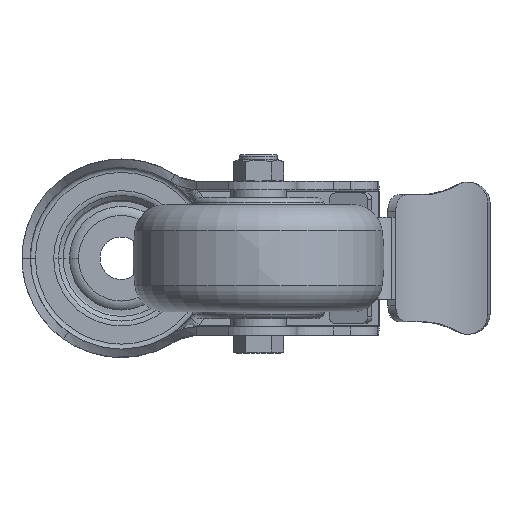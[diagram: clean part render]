
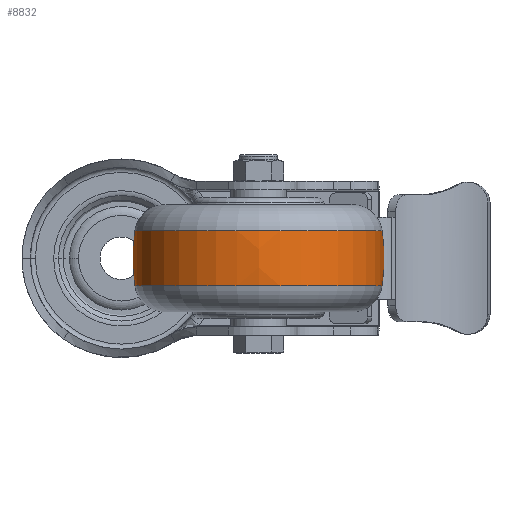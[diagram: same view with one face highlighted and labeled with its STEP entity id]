
A CAD part, front view. The second image highlights one B-rep face of the part: STEP entity #8832.
In plain terms, the highlighted free-form (B-spline) face has degree [3, 3] with [7, 4] control points.
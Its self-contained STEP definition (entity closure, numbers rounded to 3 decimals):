
#8370=CARTESIAN_POINT('',(-8.235,0.,0.));
#8371=DIRECTION('',(-1.,0.,0.));
#8372=DIRECTION('',(0.,1.,0.));
#8373=AXIS2_PLACEMENT_3D('',#8370,#8371,#8372);
#8385=CARTESIAN_POINT('',(0.,-22.5,0.));
#8386=DIRECTION('',(0.,0.,1.));
#8387=DIRECTION('',(0.137,0.991,0.));
#8388=AXIS2_PLACEMENT_3D('',#8385,#8386,#8387);
#8390=CARTESIAN_POINT('',(0.,22.5,0.));
#8391=DIRECTION('',(0.,0.,-1.));
#8392=DIRECTION('',(0.137,-0.991,0.));
#8393=AXIS2_PLACEMENT_3D('',#8390,#8391,#8392);
#8395=CARTESIAN_POINT('',(8.235,0.,0.));
#8396=DIRECTION('',(-1.,0.,0.));
#8397=DIRECTION('',(0.,1.,0.));
#8398=AXIS2_PLACEMENT_3D('',#8395,#8396,#8397);
#8562=CARTESIAN_POINT('',(8.235,36.932,0.));
#8564=VERTEX_POINT('',#8562);
#8565=CARTESIAN_POINT('',(-8.235,36.932,0.));
#8566=VERTEX_POINT('',#8565);
#8570=CARTESIAN_POINT('',(8.235,-36.932,0.));
#8572=VERTEX_POINT('',#8570);
#8573=CARTESIAN_POINT('',(-8.235,-36.932,0.));
#8574=VERTEX_POINT('',#8573);
#8796=CARTESIAN_POINT('',(-8.563,-36.813,
2.316));
#8797=CARTESIAN_POINT('',(-2.874,-37.632,
2.368));
#8798=CARTESIAN_POINT('',(2.874,-37.632,2.368));
#8799=CARTESIAN_POINT('',(8.563,-36.813,2.316));
#8800=CARTESIAN_POINT('',(-8.563,-38.238,
-20.339));
#8801=CARTESIAN_POINT('',(-2.874,-39.089,
-20.791));
#8802=CARTESIAN_POINT('',(2.874,-39.089,
-20.791));
#8803=CARTESIAN_POINT('',(8.563,-38.238,
-20.339));
#8804=CARTESIAN_POINT('',(-8.563,-22.7,
-36.886));
#8805=CARTESIAN_POINT('',(-2.874,-23.204,
-37.706));
#8806=CARTESIAN_POINT('',(2.874,-23.204,
-37.706));
#8807=CARTESIAN_POINT('',(8.563,-22.7,
-36.886));
#8808=CARTESIAN_POINT('',(-8.563,0.,
-36.886));
#8809=CARTESIAN_POINT('',(-2.874,0.,
-37.706));
#8810=CARTESIAN_POINT('',(2.874,0.,
-37.706));
#8811=CARTESIAN_POINT('',(8.563,0.,
-36.886));
#8812=CARTESIAN_POINT('',(-8.563,22.7,
-36.886));
#8813=CARTESIAN_POINT('',(-2.874,23.204,
-37.706));
#8814=CARTESIAN_POINT('',(2.874,23.204,-37.706));
#8815=CARTESIAN_POINT('',(8.563,22.7,-36.886));
#8816=CARTESIAN_POINT('',(-8.563,38.238,
-20.339));
#8817=CARTESIAN_POINT('',(-2.874,39.089,
-20.791));
#8818=CARTESIAN_POINT('',(2.874,39.089,-20.791));
#8819=CARTESIAN_POINT('',(8.563,38.238,-20.339));
#8820=CARTESIAN_POINT('',(-8.563,36.813,2.316));
#8821=CARTESIAN_POINT('',(-2.874,37.632,2.368));
#8822=CARTESIAN_POINT('',(2.874,37.632,2.368));
#8823=CARTESIAN_POINT('',(8.563,36.813,2.316));
#8824=(BOUNDED_SURFACE()B_SPLINE_SURFACE(3,3,((#8796,#8797,#8798,#8799),(#8800,
#8801,#8802,#8803),(#8804,#8805,#8806,#8807),(#8808,#8809,#8810,#8811),(#8812,
#8813,#8814,#8815),(#8816,#8817,#8818,#8819),(#8820,#8821,#8822,#8823)),
.UNSPECIFIED.,.F.,.F.,.F.)B_SPLINE_SURFACE_WITH_KNOTS((4,3,4),(4,4),(0.,1.,
2.),(0.,1.),.UNSPECIFIED.)GEOMETRIC_REPRESENTATION_ITEM()RATIONAL_B_SPLINE_SURFACE(((1.193,1.185,1.185,1.193),(
0.942,0.936,0.936,0.942),(
0.942,0.936,0.936,0.942),(
1.193,1.185,1.185,1.193),(
0.942,0.936,0.936,0.942),(
0.942,0.936,0.936,0.942),(
1.193,1.185,1.185,1.193)))REPRESENTATION_ITEM('')SURFACE());
#8825=ORIENTED_EDGE('',*,*,#8786,.T.);
#8826=ORIENTED_EDGE('',*,*,#8739,.T.);
#8827=ORIENTED_EDGE('',*,*,#8790,.F.);
#8829=ORIENTED_EDGE('',*,*,#8828,.F.);
#8830=EDGE_LOOP('',(#8825,#8826,#8827,#8829));
#8831=FACE_OUTER_BOUND('',#8830,.F.);
#8374=CIRCLE('',#8373,36.932);
#8389=CIRCLE('',#8388,60.);
#8394=CIRCLE('',#8393,60.);
#8399=CIRCLE('',#8398,36.932);
#8739=EDGE_CURVE('',#8566,#8574,#8374,.T.);
#8786=EDGE_CURVE('',#8564,#8566,#8389,.T.);
#8790=EDGE_CURVE('',#8572,#8574,#8394,.T.);
#8828=EDGE_CURVE('',#8564,#8572,#8399,.T.);
#8832=ADVANCED_FACE('',(#8831),#8824,.T.);
